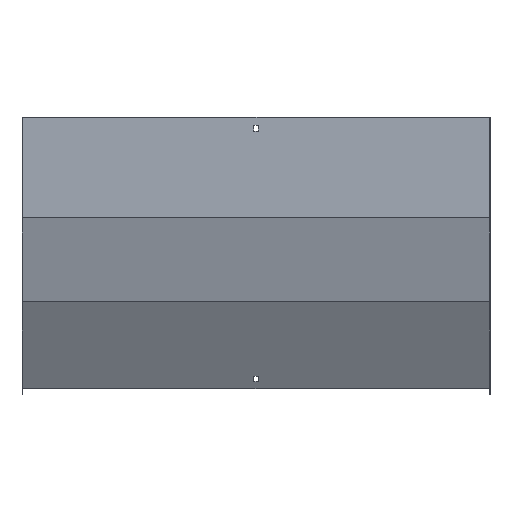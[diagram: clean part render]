
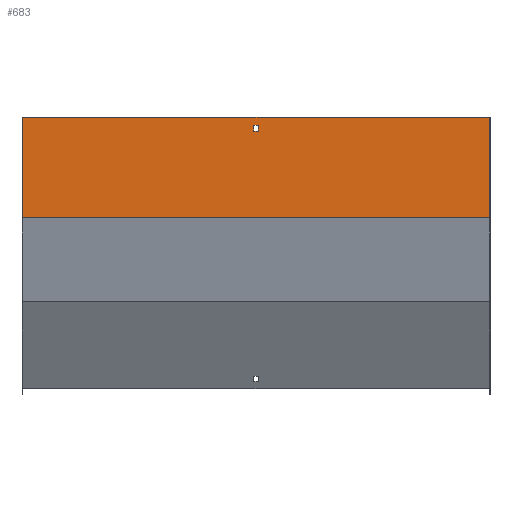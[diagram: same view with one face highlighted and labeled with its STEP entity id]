
A CAD part, front view. The second image highlights one B-rep face of the part: STEP entity #683.
In plain terms, the highlighted planar face has unit normal (0, -1, 0).
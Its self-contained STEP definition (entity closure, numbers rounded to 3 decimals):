
#6 = EDGE_CURVE ( 'NONE', #177, #848, #142, .T. ) ;
#18 = CARTESIAN_POINT ( 'NONE',  ( 351.5, -1.5, 0. ) ) ;
#27 = CARTESIAN_POINT ( 'NONE',  ( -350., -1.5, 0. ) ) ;
#62 = DIRECTION ( 'NONE',  ( 0., 1., 0. ) ) ;
#74 = LINE ( 'NONE', #18, #431 ) ;
#77 = VERTEX_POINT ( 'NONE', #695 ) ;
#89 = ORIENTED_EDGE ( 'NONE', *, *, #369, .T. ) ;
#93 = VERTEX_POINT ( 'NONE', #27 ) ;
#116 = ORIENTED_EDGE ( 'NONE', *, *, #808, .F. ) ;
#141 = LINE ( 'NONE', #204, #534 ) ;
#142 = LINE ( 'NONE', #406, #344 ) ;
#159 = ORIENTED_EDGE ( 'NONE', *, *, #420, .F. ) ;
#177 = VERTEX_POINT ( 'NONE', #698 ) ;
#182 = VECTOR ( 'NONE', #450, 1000. ) ;
#183 = CARTESIAN_POINT ( 'NONE',  ( 3.25, -1.5, -21. ) ) ;
#193 = EDGE_LOOP ( 'NONE', ( #116, #274, #347, #422 ) ) ;
#194 = FACE_OUTER_BOUND ( 'NONE', #474, .T. ) ;
#196 = AXIS2_PLACEMENT_3D ( 'NONE', #374, #62, #330 ) ;
#197 = CARTESIAN_POINT ( 'NONE',  ( 350., -1.5, -150.097 ) ) ;
#204 = CARTESIAN_POINT ( 'NONE',  ( 350., -1.5, 0. ) ) ;
#206 = CARTESIAN_POINT ( 'NONE',  ( -350., -1.5, -150.097 ) ) ;
#244 = ORIENTED_EDGE ( 'NONE', *, *, #570, .F. ) ;
#249 = LINE ( 'NONE', #447, #182 ) ;
#250 = VERTEX_POINT ( 'NONE', #183 ) ;
#260 = VERTEX_POINT ( 'NONE', #197 ) ;
#271 = CARTESIAN_POINT ( 'NONE',  ( -350., -1.5, 0. ) ) ;
#274 = ORIENTED_EDGE ( 'NONE', *, *, #354, .F. ) ;
#287 = LINE ( 'NONE', #662, #487 ) ;
#330 = DIRECTION ( 'NONE',  ( 0., 0., 1. ) ) ;
#334 = LINE ( 'NONE', #729, #636 ) ;
#344 = VECTOR ( 'NONE', #402, 1000. ) ;
#347 = ORIENTED_EDGE ( 'NONE', *, *, #6, .F. ) ;
#354 = EDGE_CURVE ( 'NONE', #848, #250, #287, .T. ) ;
#369 = EDGE_CURVE ( 'NONE', #561, #93, #74, .T. ) ;
#374 = CARTESIAN_POINT ( 'NONE',  ( 351.5, -1.5, 0. ) ) ;
#402 = DIRECTION ( 'NONE',  ( 0., 0., -1. ) ) ;
#406 = CARTESIAN_POINT ( 'NONE',  ( -3.25, -1.5, 0. ) ) ;
#420 = EDGE_CURVE ( 'NONE', #561, #260, #141, .T. ) ;
#422 = ORIENTED_EDGE ( 'NONE', *, *, #708, .F. ) ;
#429 = ORIENTED_EDGE ( 'NONE', *, *, #792, .T. ) ;
#431 = VECTOR ( 'NONE', #747, 1000. ) ;
#432 = VECTOR ( 'NONE', #797, 1000. ) ;
#447 = CARTESIAN_POINT ( 'NONE',  ( 351.5, -1.5, -150.097 ) ) ;
#450 = DIRECTION ( 'NONE',  ( -1., 0., 0. ) ) ;
#453 = PLANE ( 'NONE',  #196 ) ;
#474 = EDGE_LOOP ( 'NONE', ( #429, #244, #159, #89 ) ) ;
#475 = CARTESIAN_POINT ( 'NONE',  ( 3.25, -1.5, 0. ) ) ;
#487 = VECTOR ( 'NONE', #799, 1000. ) ;
#529 = DIRECTION ( 'NONE',  ( 0., 0., -1. ) ) ;
#532 = LINE ( 'NONE', #475, #432 ) ;
#534 = VECTOR ( 'NONE', #804, 1000. ) ;
#561 = VERTEX_POINT ( 'NONE', #840 ) ;
#570 = EDGE_CURVE ( 'NONE', #260, #798, #249, .T. ) ;
#636 = VECTOR ( 'NONE', #855, 1000. ) ;
#640 = CARTESIAN_POINT ( 'NONE',  ( -3.25, -1.5, -21. ) ) ;
#655 = FACE_BOUND ( 'NONE', #193, .T. ) ;
#662 = CARTESIAN_POINT ( 'NONE',  ( 351.5, -1.5, -21. ) ) ;
#683 = ADVANCED_FACE ( 'NONE', ( #194, #655 ), #453, .F. ) ;
#695 = CARTESIAN_POINT ( 'NONE',  ( 3.25, -1.5, -12. ) ) ;
#698 = CARTESIAN_POINT ( 'NONE',  ( -3.25, -1.5, -12. ) ) ;
#708 = EDGE_CURVE ( 'NONE', #77, #177, #334, .T. ) ;
#729 = CARTESIAN_POINT ( 'NONE',  ( 351.5, -1.5, -12. ) ) ;
#747 = DIRECTION ( 'NONE',  ( -1., 0., 0. ) ) ;
#792 = EDGE_CURVE ( 'NONE', #93, #798, #801, .T. ) ;
#797 = DIRECTION ( 'NONE',  ( 0., 0., 1. ) ) ;
#798 = VERTEX_POINT ( 'NONE', #206 ) ;
#799 = DIRECTION ( 'NONE',  ( 1., 0., 0. ) ) ;
#801 = LINE ( 'NONE', #271, #854 ) ;
#804 = DIRECTION ( 'NONE',  ( 0., 0., -1. ) ) ;
#808 = EDGE_CURVE ( 'NONE', #250, #77, #532, .T. ) ;
#840 = CARTESIAN_POINT ( 'NONE',  ( 350., -1.5, 0. ) ) ;
#848 = VERTEX_POINT ( 'NONE', #640 ) ;
#854 = VECTOR ( 'NONE', #529, 1000. ) ;
#855 = DIRECTION ( 'NONE',  ( -1., 0., 0. ) ) ;
